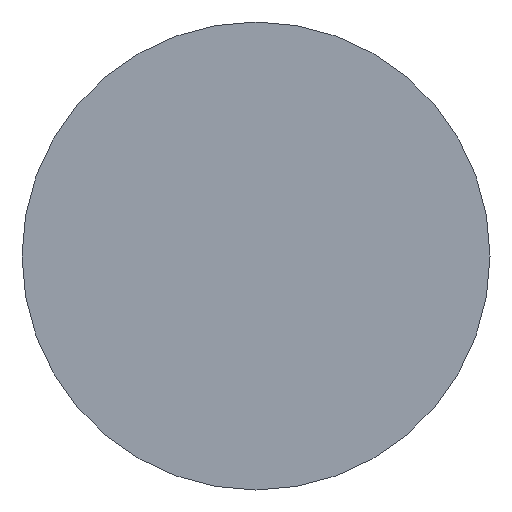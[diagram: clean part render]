
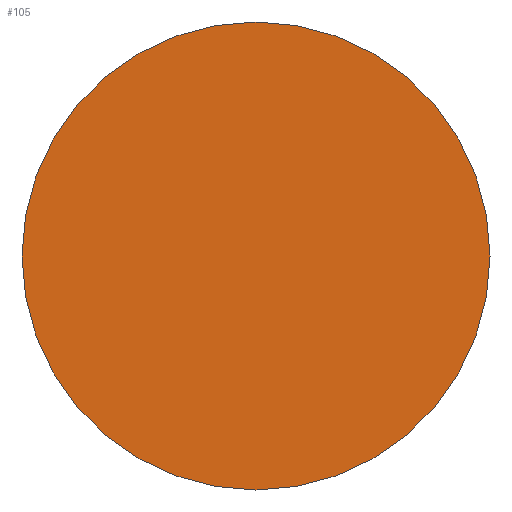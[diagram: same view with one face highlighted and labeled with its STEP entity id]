
A CAD part, left-side view. The second image highlights one B-rep face of the part: STEP entity #105.
In plain terms, the highlighted planar face has unit normal (-1, 0, 0).
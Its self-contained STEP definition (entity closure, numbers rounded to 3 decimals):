
#30 = CARTESIAN_POINT ( 'NONE',  ( 0., 0., -1.5 ) ) ;
#32 = CARTESIAN_POINT ( 'NONE',  ( 0., 0., 0. ) ) ;
#54 = PLANE ( 'NONE',  #221 ) ;
#67 = VERTEX_POINT ( 'NONE', #129 ) ;
#70 = EDGE_LOOP ( 'NONE', ( #120, #155 ) ) ;
#103 = AXIS2_PLACEMENT_3D ( 'NONE', #122, #148, #275 ) ;
#105 = ADVANCED_FACE ( 'NONE', ( #181 ), #54, .F. ) ;
#114 = VERTEX_POINT ( 'NONE', #30 ) ;
#120 = ORIENTED_EDGE ( 'NONE', *, *, #273, .T. ) ;
#122 = CARTESIAN_POINT ( 'NONE',  ( 0., 0., 0. ) ) ;
#129 = CARTESIAN_POINT ( 'NONE',  ( 0., 0., 1.5 ) ) ;
#131 = DIRECTION ( 'NONE',  ( -1., 0., 0. ) ) ;
#136 = CIRCLE ( 'NONE', #103, 1.5 ) ;
#137 = EDGE_CURVE ( 'NONE', #114, #67, #136, .T. ) ;
#148 = DIRECTION ( 'NONE',  ( -1., 0., 0. ) ) ;
#153 = DIRECTION ( 'NONE',  ( 0., 0., -1. ) ) ;
#155 = ORIENTED_EDGE ( 'NONE', *, *, #137, .T. ) ;
#156 = AXIS2_PLACEMENT_3D ( 'NONE', #261, #131, #288 ) ;
#181 = FACE_OUTER_BOUND ( 'NONE', #70, .T. ) ;
#221 = AXIS2_PLACEMENT_3D ( 'NONE', #32, #279, #153 ) ;
#261 = CARTESIAN_POINT ( 'NONE',  ( 0., 0., 0. ) ) ;
#270 = CIRCLE ( 'NONE', #156, 1.5 ) ;
#273 = EDGE_CURVE ( 'NONE', #67, #114, #270, .T. ) ;
#275 = DIRECTION ( 'NONE',  ( 0., 0., 1. ) ) ;
#279 = DIRECTION ( 'NONE',  ( 1., 0., 0. ) ) ;
#288 = DIRECTION ( 'NONE',  ( 0., 0., 1. ) ) ;
